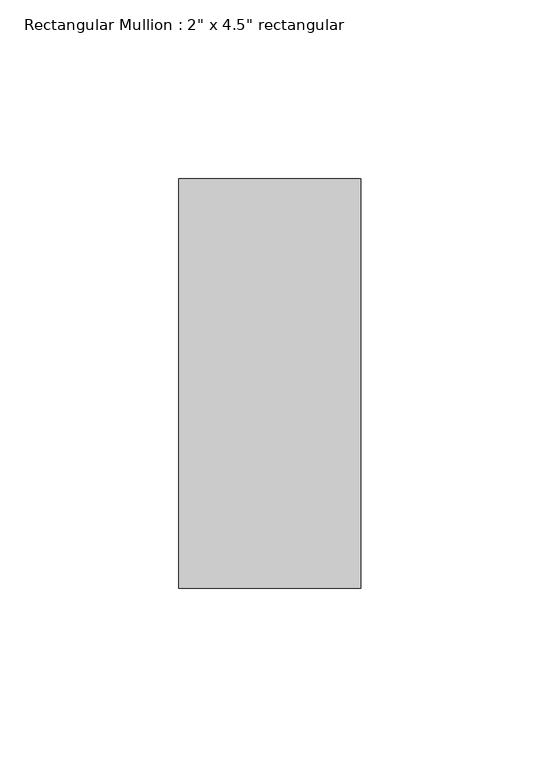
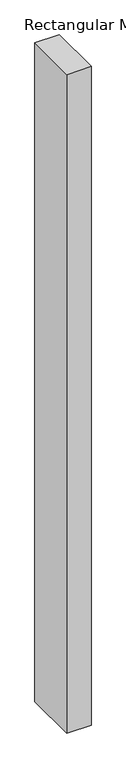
"""IFC4 building model written with IfcOpenShell, lengths in millimetres: member geometry."""

from ifc_helpers import new_model, si_unit, frame, origin, place, context, project, spatial, polyline, outline, extrude, source, transform, mapped, element, save


def member_ccf7f6e3(model_context):
    return source(origin(), model_context, "Body", "SweptSolid", [
        extrude(outline(polyline([(0.0, 57.15), (0.0, -57.15), (-50.8, -57.15), (-50.8, 57.15), (0.0, 57.15)])), frame((0.0, 0.0, -1447.904664), z_axis=(0.0, 0.0, 1.0), x_axis=(1.0, 0.0, 0.0)), (0.0, 0.0, 1.0), 1447.904664),
    ])


if __name__ == "__main__":
    model = new_model("IFC4")
    model_context = context("Model", 3, world=origin())
    ifc_project = project(units=[si_unit("LENGTHUNIT", "METRE", prefix="MILLI")], contexts=[model_context])
    site = spatial("IfcSite", under=ifc_project)
    building = spatial("IfcBuilding", under=site)
    placement = place(None, origin())
    member_shape = member_ccf7f6e3(model_context)
    element("IfcMember", 1, ObjectType="Rectangular Mullion : 2\" x 4.5\" rectangular", at=placement, inside=building, context=model_context, shape_type="MappedRepresentation", body=[
        mapped(member_shape, transform((0.0, 0.0, 0.0), x_axis=(1.0, 0.0, 0.0), y_axis=(0.0, 1.0, 0.0), z_axis=(0.0, 0.0, 1.0))),
    ])
    save(model, "model.ifc")
